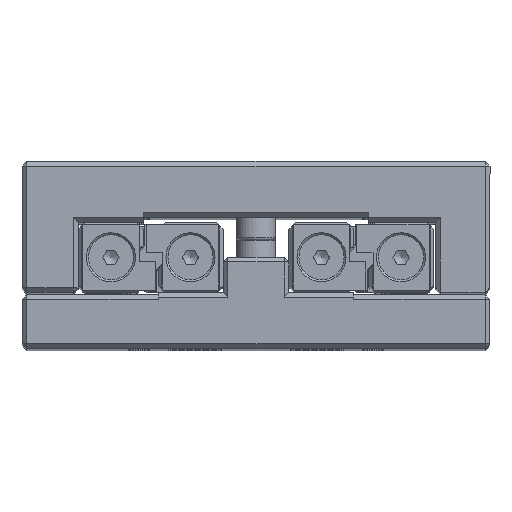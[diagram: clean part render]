
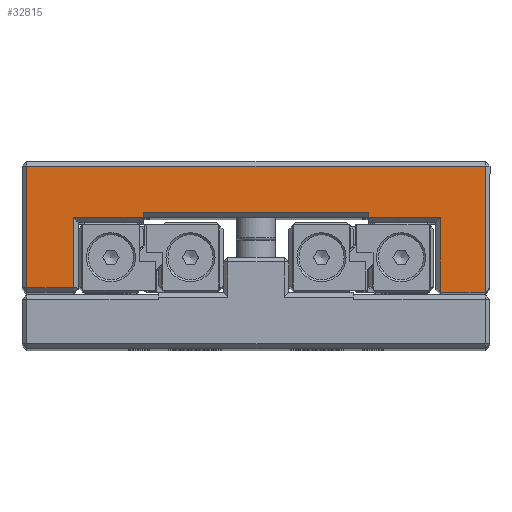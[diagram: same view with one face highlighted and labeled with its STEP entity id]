
A CAD part, top view. The second image highlights one B-rep face of the part: STEP entity #32815.
In plain terms, the highlighted planar face has unit normal (0, 0, 1).
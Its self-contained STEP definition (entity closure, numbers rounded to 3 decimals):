
#1952=PLANE('',#35367);
#3670=FACE_OUTER_BOUND('',#5595,.T.);
#5595=EDGE_LOOP('',(#26728,#26729,#26730,#26731,#26732,#26733,#26734,#26735,
#26736,#26737,#26738,#26739));
#7981=LINE('',#50721,#10983);
#8157=LINE('',#51658,#11159);
#8161=LINE('',#51666,#11163);
#8170=LINE('',#51681,#11172);
#8174=LINE('',#51689,#11176);
#8189=LINE('',#51715,#11191);
#8192=LINE('',#51719,#11194);
#8213=LINE('',#51764,#11215);
#8219=LINE('',#51778,#11221);
#8223=LINE('',#51783,#11225);
#8227=LINE('',#51790,#11229);
#8228=LINE('',#51792,#11230);
#10983=VECTOR('',#40682,10.);
#11159=VECTOR('',#41500,10.);
#11163=VECTOR('',#41508,10.);
#11172=VECTOR('',#41523,10.);
#11176=VECTOR('',#41529,10.);
#11191=VECTOR('',#41554,10.);
#11194=VECTOR('',#41559,10.);
#11215=VECTOR('',#41614,10.);
#11221=VECTOR('',#41624,10.);
#11225=VECTOR('',#41630,10.);
#11229=VECTOR('',#41636,10.);
#11230=VECTOR('',#41639,10.);
#14855=VERTEX_POINT('',#50717);
#14857=VERTEX_POINT('',#50720);
#15153=VERTEX_POINT('',#51657);
#15154=VERTEX_POINT('',#51664);
#15155=VERTEX_POINT('',#51665);
#15158=VERTEX_POINT('',#51680);
#15161=VERTEX_POINT('',#51687);
#15167=VERTEX_POINT('',#51713);
#15171=VERTEX_POINT('',#51757);
#15174=VERTEX_POINT('',#51762);
#15179=VERTEX_POINT('',#51775);
#15182=VERTEX_POINT('',#51786);
#18781=EDGE_CURVE('',#14857,#14855,#7981,.T.);
#19191=EDGE_CURVE('',#14857,#15153,#8157,.T.);
#19195=EDGE_CURVE('',#15154,#15155,#8161,.T.);
#19204=EDGE_CURVE('',#15155,#15158,#8170,.T.);
#19208=EDGE_CURVE('',#15161,#14855,#8174,.T.);
#19223=EDGE_CURVE('',#15167,#15161,#8189,.T.);
#19226=EDGE_CURVE('',#15158,#15167,#8192,.T.);
#19247=EDGE_CURVE('',#15174,#15171,#8213,.T.);
#19253=EDGE_CURVE('',#15174,#15179,#8219,.T.);
#19257=EDGE_CURVE('',#15153,#15179,#8223,.T.);
#19261=EDGE_CURVE('',#15182,#15171,#8227,.T.);
#19262=EDGE_CURVE('',#15182,#15154,#8228,.T.);
#26728=ORIENTED_EDGE('',*,*,#19195,.F.);
#26729=ORIENTED_EDGE('',*,*,#19262,.F.);
#26730=ORIENTED_EDGE('',*,*,#19261,.T.);
#26731=ORIENTED_EDGE('',*,*,#19247,.F.);
#26732=ORIENTED_EDGE('',*,*,#19253,.T.);
#26733=ORIENTED_EDGE('',*,*,#19257,.F.);
#26734=ORIENTED_EDGE('',*,*,#19191,.F.);
#26735=ORIENTED_EDGE('',*,*,#18781,.T.);
#26736=ORIENTED_EDGE('',*,*,#19208,.F.);
#26737=ORIENTED_EDGE('',*,*,#19223,.F.);
#26738=ORIENTED_EDGE('',*,*,#19226,.F.);
#26739=ORIENTED_EDGE('',*,*,#19204,.F.);
#32815=ADVANCED_FACE('',(#3670),#1952,.T.);
#35367=AXIS2_PLACEMENT_3D('',#51791,#41637,#41638);
#40682=DIRECTION('',(1.,0.,0.));
#41500=DIRECTION('',(0.,1.,0.));
#41508=DIRECTION('',(0.,-1.,0.));
#41523=DIRECTION('',(-1.,0.,0.));
#41529=DIRECTION('',(0.,-1.,0.));
#41554=DIRECTION('',(1.,0.,0.));
#41559=DIRECTION('',(0.,1.,0.));
#41614=DIRECTION('',(-1.,0.,0.));
#41624=DIRECTION('',(0.,-1.,0.));
#41630=DIRECTION('',(-1.,0.,0.));
#41636=DIRECTION('',(0.,1.,0.));
#41637=DIRECTION('center_axis',(0.,0.,
1.));
#41638=DIRECTION('ref_axis',(1.,0.,0.));
#41639=DIRECTION('',(-1.,0.,0.));
#50717=CARTESIAN_POINT('',(19.869,67.583,64.133));
#50720=CARTESIAN_POINT('',(10.269,67.583,64.133));
#50721=CARTESIAN_POINT('',(9.269,67.583,64.133));
#51657=CARTESIAN_POINT('',(10.269,83.583,64.133));
#51658=CARTESIAN_POINT('',(10.269,82.083,64.133));
#51664=CARTESIAN_POINT('',(-68.131,83.583,64.133));
#51665=CARTESIAN_POINT('',(-68.131,68.583,64.133));
#51666=CARTESIAN_POINT('',(-68.131,74.583,64.133));
#51680=CARTESIAN_POINT('',(-78.131,68.583,64.133));
#51681=CARTESIAN_POINT('',(-54.131,68.583,64.133));
#51687=CARTESIAN_POINT('',(19.869,94.583,64.133));
#51689=CARTESIAN_POINT('',(19.869,74.583,64.133));
#51713=CARTESIAN_POINT('',(-78.131,94.583,64.133));
#51715=CARTESIAN_POINT('',(-4.131,94.583,64.133));
#51719=CARTESIAN_POINT('',(-78.131,88.583,64.133));
#51757=CARTESIAN_POINT('',(-53.231,84.583,64.133));
#51762=CARTESIAN_POINT('',(-5.031,84.583,64.133));
#51764=CARTESIAN_POINT('',(-41.181,84.583,64.133));
#51775=CARTESIAN_POINT('',(-5.031,83.583,64.133));
#51778=CARTESIAN_POINT('',(-5.031,83.583,64.133));
#51783=CARTESIAN_POINT('',(-17.081,83.583,64.133));
#51786=CARTESIAN_POINT('',(-53.231,83.583,64.133));
#51790=CARTESIAN_POINT('',(-53.231,82.583,64.133));
#51791=CARTESIAN_POINT('Origin',(-29.131,81.583,64.133));
#51792=CARTESIAN_POINT('',(-48.131,83.583,64.133));
